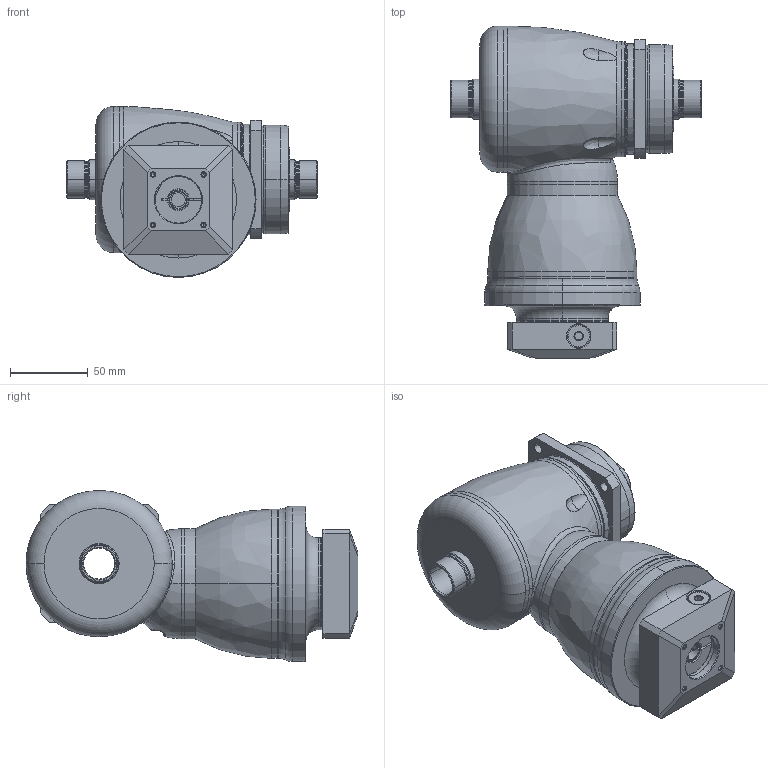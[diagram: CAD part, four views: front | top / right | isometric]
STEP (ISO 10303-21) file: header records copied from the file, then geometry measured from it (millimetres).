
FILE_DESCRIPTION((''),'2;1');
FILE_NAME('KF075_S4_1ST_11-P0409200101_ASM','2016-07-14T',('d01943'),(''),'PRO/ENGINEER BY PARAMETRIC TECHNOLOGY CORPORATION, 2008410','PRO/ENGINEER BY PARAMETRIC TECHNOLOGY CORPORATION, 2008410','');
FILE_SCHEMA(('CONFIG_CONTROL_DESIGN'));
Length unit declared in the file: millimetre
Products named in the file (11): P1008300002; P1804300001; P0914300001; P1315300001; P1007300001; P1318300001; P0409200101; P0503200005; P0912300001; 21711410012; KF075_S4_1ST_11-P0409200101_ASM
Assembly tree (10 placements, depth 2):
  KF075_S4_1ST_11-P0409200101_ASM
    P1008300002
    P1804300001
    P0914300001
    P1315300001
    P1007300001
    P1318300001
    P0409200101
    P0503200005
    P0912300001
    21711410012
Bounding box: 161 x 213.5 x 110 mm (x, y, z)
Volume: 1155419.5 mm3; surface area: 209011.4 mm2
Topology: 11 solids, 11 shells, 508 faces, 1163 edges, 691 vertices
Faces by surface type: cylinder 169, cone 122, plane 90, torus 78, bspline 47, sphere 2
Entity records: 21815 total; most frequent: CARTESIAN_POINT 10310, DIRECTION 2506, ORIENTED_EDGE 2266, EDGE_CURVE 1133, AXIS2_PLACEMENT_3D 1073, VERTEX_POINT 685, CIRCLE 591, EDGE_LOOP 576
